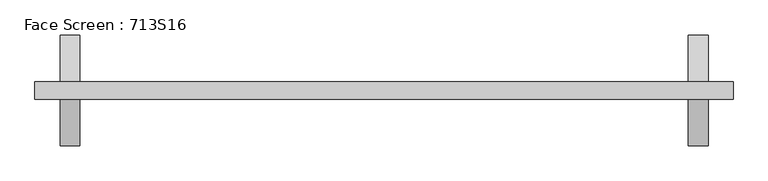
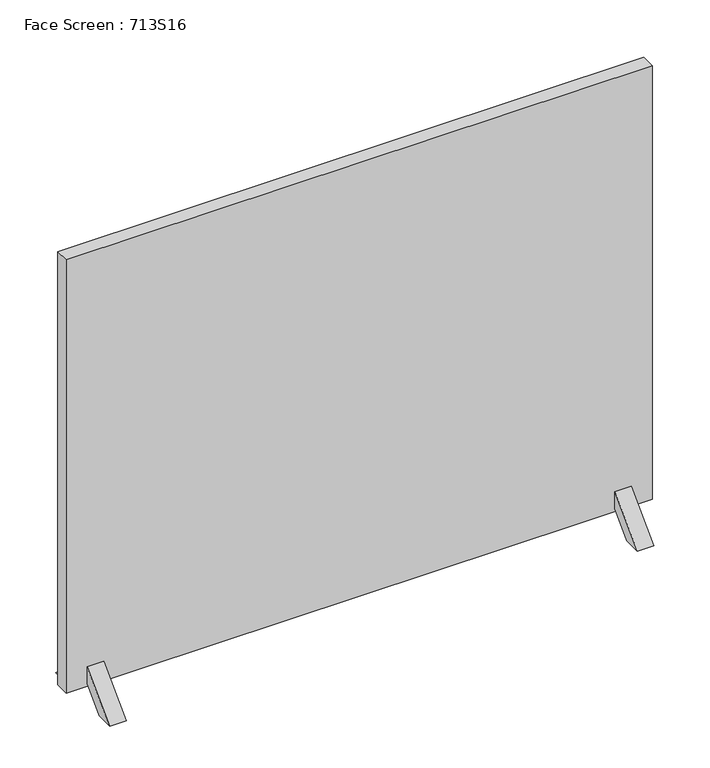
"""IFC4 building model written with IfcOpenShell, lengths in millimetres: furniture geometry, Face Screen : 713S16."""

from ifc_helpers import new_model, si_unit, frame, origin, place, context, project, spatial, polyline, outline, extrude, faceted_brep, source, transform, mapped, element, save


def face_screen_713s16_cd65d1c1(model_context):
    return source(origin(), model_context, "Body", "SolidModel", [
        faceted_brep([(709.0, 20.0, 50.0955899), (709.0, 20.0, 57.4960966), (709.0, 37.6776695, 39.8184271), (709.0, -37.6776695, 39.8184271), (709.0, -20.0, 57.4960966), (709.0, -20.0, 50.0955899), (697.5, -126.9935713, 0.0), (742.5, -126.9935713, 0.0), (742.5, -20.0, 106.9935713), (697.5, -20.0, 106.9935713), (697.5, -77.4960966, 0.0), (742.5, -77.4960966, 0.0), (697.5, -20.0, 57.4960966), (731.0, -37.6776695, 39.8184271), (731.0, -20.0, 57.4960966), (742.5, -20.0, 57.4960966), (731.0, 20.0, 50.0955899), (731.0, -20.0, 50.0955899), (731.0, 37.6776695, 39.8184271), (731.0, 20.0, 57.4960966), (742.5, 20.0, 57.4960966), (742.5, 20.0, 106.9935713), (697.5, 20.0, 106.9935713), (697.5, 20.0, 57.4960966), (697.5, 126.9935713, 0.0), (697.5, 77.4960966, 0.0), (742.5, 77.4960966, 0.0), (742.5, 126.9935713, 0.0)], [[[0, 1, 2, 3, 4, 5]], [[6, 7, 8, 9]], [[10, 11, 7, 6]], [[12, 4, 3, 13, 14, 15, 11, 10]], [[16, 17, 14, 13, 18, 19]], [[5, 17, 16, 0]], [[4, 12, 9, 8, 15, 14, 17, 5]], [[2, 18, 13, 3]], [[0, 16, 19, 20, 21, 22, 23, 1]], [[22, 24, 25, 23]], [[9, 12, 10, 6]], [[21, 20, 26, 27]], [[8, 7, 11, 15]], [[25, 26, 20, 19, 18, 2, 1, 23]], [[24, 27, 26, 25]], [[22, 21, 27, 24]]]),
        faceted_brep([(-709.0, -20.0, 50.0955899), (-709.0, -20.0, 57.4960966), (-709.0, -37.6776695, 39.8184271), (-709.0, 37.6776695, 39.8184271), (-709.0, 20.0, 57.4960966), (-709.0, 20.0, 50.0955899), (-697.5, 126.9935713, 0.0), (-742.5, 126.9935713, 0.0), (-742.5, 20.0, 106.9935713), (-697.5, 20.0, 106.9935713), (-697.5, 77.4960966, 0.0), (-742.5, 77.4960966, 0.0), (-697.5, 20.0, 57.4960966), (-731.0, 37.6776695, 39.8184271), (-731.0, 20.0, 57.4960966), (-742.5, 20.0, 57.4960966), (-731.0, -20.0, 50.0955899), (-731.0, 20.0, 50.0955899), (-731.0, -37.6776695, 39.8184271), (-731.0, -20.0, 57.4960966), (-742.5, -20.0, 57.4960966), (-742.5, -20.0, 106.9935713), (-697.5, -20.0, 106.9935713), (-697.5, -20.0, 57.4960966), (-697.5, -126.9935713, 0.0), (-697.5, -77.4960966, 0.0), (-742.5, -77.4960966, 0.0), (-742.5, -126.9935713, 0.0)], [[[0, 1, 2, 3, 4, 5]], [[6, 7, 8, 9]], [[10, 11, 7, 6]], [[12, 4, 3, 13, 14, 15, 11, 10]], [[16, 17, 14, 13, 18, 19]], [[5, 17, 16, 0]], [[4, 12, 9, 8, 15, 14, 17, 5]], [[2, 18, 13, 3]], [[0, 16, 19, 20, 21, 22, 23, 1]], [[22, 24, 25, 23]], [[9, 12, 10, 6]], [[21, 20, 26, 27]], [[8, 7, 11, 15]], [[25, 26, 20, 19, 18, 2, 1, 23]], [[24, 27, 26, 25]], [[22, 21, 27, 24]]]),
        extrude(outline(polyline([(800.0, 20.0), (800.0, -20.0), (-800.0, -20.0), (-800.0, 20.0), (800.0, 20.0)])), frame((0.0, 0.0, 50.0), z_axis=(0.0, 0.0, 1.0), x_axis=(1.0, 0.0, 0.0)), (0.0, 0.0, 1.0), 1250.0),
    ])


if __name__ == "__main__":
    model = new_model("IFC4")
    model_context = context("Model", 3, world=origin())
    ifc_project = project(units=[si_unit("LENGTHUNIT", "METRE", prefix="MILLI")], contexts=[model_context])
    site = spatial("IfcSite", under=ifc_project)
    building = spatial("IfcBuilding", under=site)
    placement = place(None, origin())
    face_screen_713s16_shape = face_screen_713s16_cd65d1c1(model_context)
    element("IfcFurniture", 1, ObjectType="Face Screen : 713S16", at=placement, inside=building, context=model_context, shape_type="MappedRepresentation", body=[
        mapped(face_screen_713s16_shape, transform((0.0, 0.0, 0.0), x_axis=(1.0, 0.0, 0.0), y_axis=(0.0, 1.0, 0.0), z_axis=(0.0, 0.0, 1.0))),
    ])
    save(model, "model.ifc")
